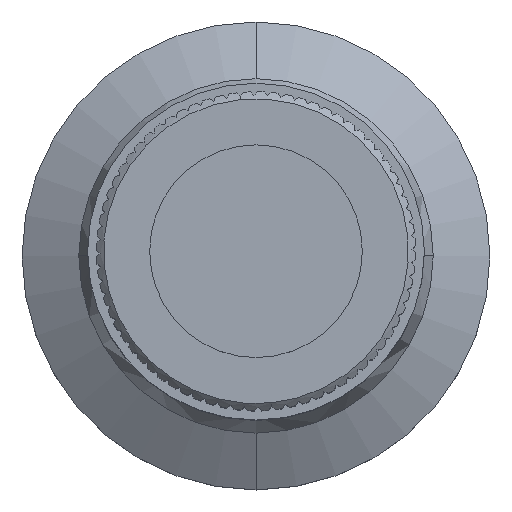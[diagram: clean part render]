
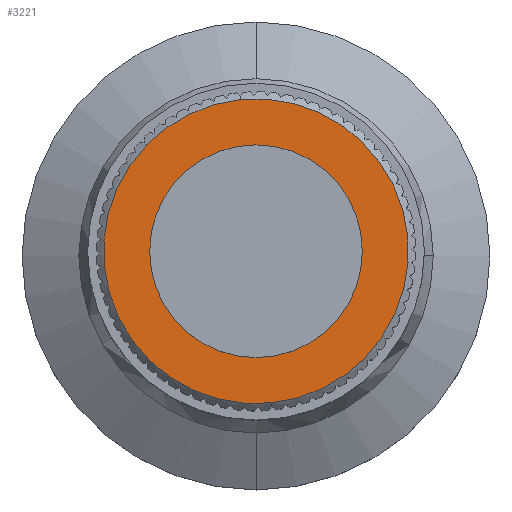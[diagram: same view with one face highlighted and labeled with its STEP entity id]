
A CAD part, top view. The second image highlights one B-rep face of the part: STEP entity #3221.
In plain terms, the highlighted planar face has unit normal (0, 0, 1) as drawn and (0, 1, 0) by its records, which use the part's own axes.
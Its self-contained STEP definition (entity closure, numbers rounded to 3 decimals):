
#919 = EDGE_LOOP ( 'NONE', ( #12073, #5029 ) ) ;
#1384 = DIRECTION ( 'NONE',  ( 0., 1., 0. ) ) ;
#1705 = CARTESIAN_POINT ( 'NONE',  ( 0., 35.2, -3. ) ) ;
#1718 = EDGE_CURVE ( 'NONE', #11901, #5278, #3637, .T. ) ;
#3221 = ADVANCED_FACE ( 'NONE', ( #8240, #14062 ), #10492, .F. ) ;
#3359 = ORIENTED_EDGE ( 'NONE', *, *, #1718, .T. ) ;
#3637 = CIRCLE ( 'NONE', #5662, 4.3 ) ;
#4045 = DIRECTION ( 'NONE',  ( 0.995, 0., -0.101 ) ) ;
#4659 = CARTESIAN_POINT ( 'NONE',  ( 4.278, 35.2, -0.433 ) ) ;
#4745 = AXIS2_PLACEMENT_3D ( 'NONE', #10164, #1384, #9083 ) ;
#5023 = CARTESIAN_POINT ( 'NONE',  ( 0., 35.2, 0. ) ) ;
#5029 = ORIENTED_EDGE ( 'NONE', *, *, #9844, .F. ) ;
#5049 = DIRECTION ( 'NONE',  ( 0.995, 0., -0.101 ) ) ;
#5138 = CIRCLE ( 'NONE', #4745, 3. ) ;
#5278 = VERTEX_POINT ( 'NONE', #6777 ) ;
#5662 = AXIS2_PLACEMENT_3D ( 'NONE', #9674, #8460, #4045 ) ;
#5681 = AXIS2_PLACEMENT_3D ( 'NONE', #12647, #13739, #5049 ) ;
#5751 = CARTESIAN_POINT ( 'NONE',  ( 0., 35.2, 0. ) ) ;
#6185 = CARTESIAN_POINT ( 'NONE',  ( 0., 35.2, 3. ) ) ;
#6777 = CARTESIAN_POINT ( 'NONE',  ( -4.278, 35.2, 0.433 ) ) ;
#7833 = CIRCLE ( 'NONE', #13955, 4.3 ) ;
#7860 = VERTEX_POINT ( 'NONE', #6185 ) ;
#8240 = FACE_BOUND ( 'NONE', #919, .T. ) ;
#8460 = DIRECTION ( 'NONE',  ( 0., 1., 0. ) ) ;
#9067 = DIRECTION ( 'NONE',  ( 0.995, 0., -0.101 ) ) ;
#9083 = DIRECTION ( 'NONE',  ( 0., 0., -1. ) ) ;
#9320 = DIRECTION ( 'NONE',  ( 0., 1., 0. ) ) ;
#9674 = CARTESIAN_POINT ( 'NONE',  ( 0., 35.2, 0. ) ) ;
#9844 = EDGE_CURVE ( 'NONE', #7860, #12574, #5138, .T. ) ;
#10164 = CARTESIAN_POINT ( 'NONE',  ( 0., 35.2, 0. ) ) ;
#10492 = PLANE ( 'NONE',  #5681 ) ;
#10578 = EDGE_LOOP ( 'NONE', ( #3359, #12094 ) ) ;
#11044 = EDGE_CURVE ( 'NONE', #12574, #7860, #12638, .T. ) ;
#11531 = DIRECTION ( 'NONE',  ( 0., 0., -1. ) ) ;
#11901 = VERTEX_POINT ( 'NONE', #4659 ) ;
#12073 = ORIENTED_EDGE ( 'NONE', *, *, #11044, .F. ) ;
#12094 = ORIENTED_EDGE ( 'NONE', *, *, #13000, .T. ) ;
#12375 = DIRECTION ( 'NONE',  ( 0., 1., 0. ) ) ;
#12574 = VERTEX_POINT ( 'NONE', #1705 ) ;
#12638 = CIRCLE ( 'NONE', #12998, 3. ) ;
#12647 = CARTESIAN_POINT ( 'NONE',  ( -0.453, 35.2, -4.477 ) ) ;
#12998 = AXIS2_PLACEMENT_3D ( 'NONE', #5023, #9320, #11531 ) ;
#13000 = EDGE_CURVE ( 'NONE', #5278, #11901, #7833, .T. ) ;
#13739 = DIRECTION ( 'NONE',  ( 0., -1., 0. ) ) ;
#13955 = AXIS2_PLACEMENT_3D ( 'NONE', #5751, #12375, #9067 ) ;
#14062 = FACE_OUTER_BOUND ( 'NONE', #10578, .T. ) ;
